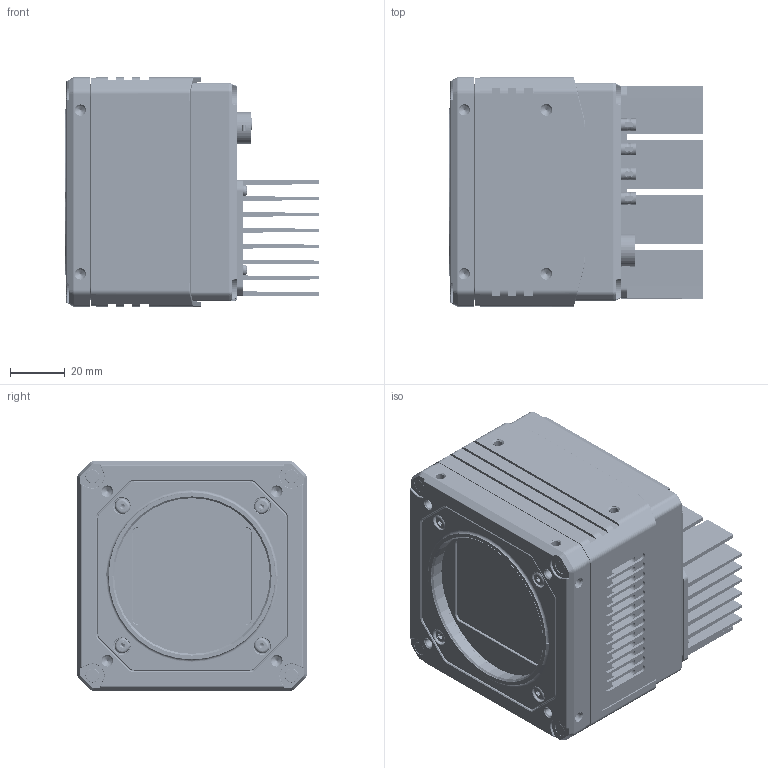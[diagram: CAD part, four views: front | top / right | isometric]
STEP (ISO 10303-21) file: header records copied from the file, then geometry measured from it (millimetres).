
FILE_DESCRIPTION((''),'2;1');
FILE_NAME('1111111111_ASM','2026-04-01T13:50:01',('wangyijun6'),(''),'CREO PARAMETRIC BY PTC INC, 2020044','CREO PARAMETRIC BY PTC INC, 2020044','');
FILE_SCHEMA(('CONFIG_CONTROL_DESIGN'));
Products named in the file (1): 1111111111_ASM
Bounding box: 93.04 x 84 x 84 mm (x, y, z)
Volume: 348401.6 mm3; surface area: 145963.8 mm2
Topology: 3 solids, 92 shells, 4290 faces, 11464 edges, 7293 vertices
Faces by surface type: plane 1786, cylinder 1472, cone 674, torus 170, bspline 106, extrusion 74, sphere 8
Entity records: 186896 total; most frequent: CARTESIAN_POINT 79873, ORIENTED_EDGE 22384, DIRECTION 22374, EDGE_CURVE 11358, AXIS2_PLACEMENT_3D 8220, VERTEX_POINT 7293, VECTOR 5934, LINE 5860
